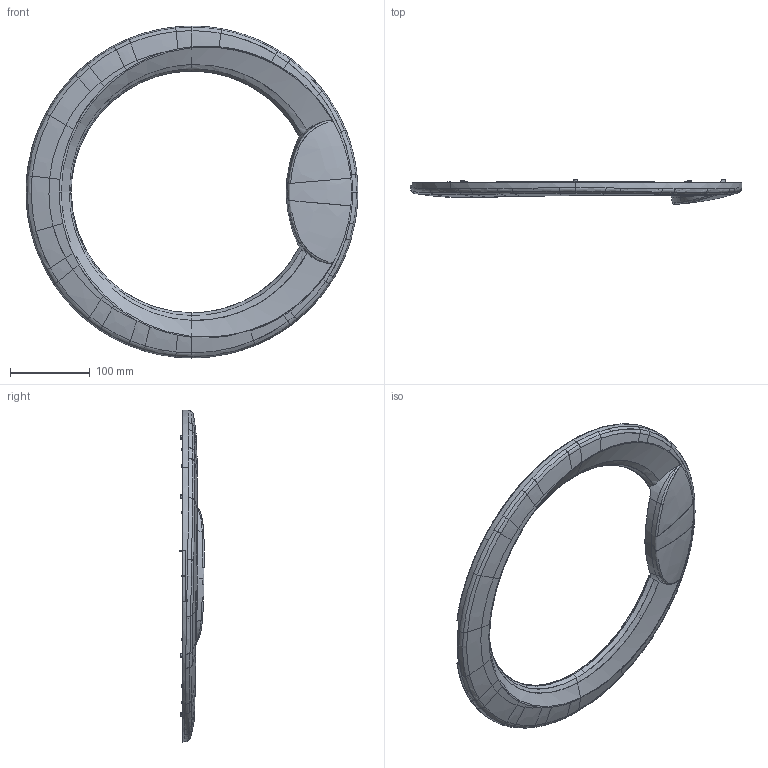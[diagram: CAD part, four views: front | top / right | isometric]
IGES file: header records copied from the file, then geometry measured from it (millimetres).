
Start section: Comment
Global section: file name: 148037494.igs; native system:  By UGS Corp.; preprocessor: XPlus GENERIC/IGES 3.0; author: Author; organization: Title; date: 20080207.155342; units: millimetre
Bounding box: 415.77 x 30.71 x 415.88 mm (x, y, z)
Surface area: 193639.4 mm2 (no closed solid volume)
Topology: 0 solids, 0 shells, 829 faces, 5788 edges, 5787 vertices
Faces by surface type: bspline 829
